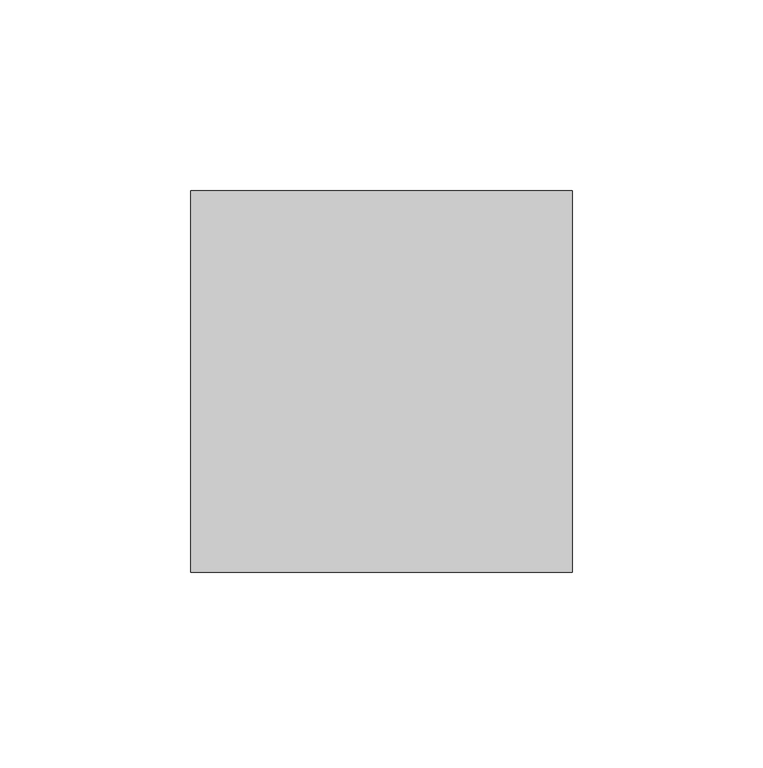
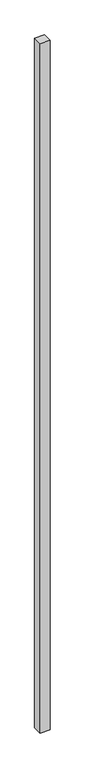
"""IFC4 building model written with IfcOpenShell, lengths in millimetres: proxy geometry, Брус : 100х100."""

from ifc_helpers import new_model, si_unit, origin, origin_with_axes, place, context, project, spatial, polyline, outline, extrude, source, transform, mapped, element, save


def generic_models_22a26330(model_context):
    return source(origin(), model_context, "Body", "SweptSolid", [
        extrude(outline(polyline([(100.0, 0.0), (0.0, 0.0), (0.0, 100.0), (100.0, 100.0), (100.0, 0.0)])), origin_with_axes(), (0.0, 0.0, 1.0), 7560.0),
    ])


if __name__ == "__main__":
    model = new_model("IFC4")
    model_context = context("Model", 3, world=origin())
    ifc_project = project(units=[si_unit("LENGTHUNIT", "METRE", prefix="MILLI")], contexts=[model_context])
    site = spatial("IfcSite", under=ifc_project)
    building = spatial("IfcBuilding", under=site)
    placement = place(None, origin())
    generic_models_shape = generic_models_22a26330(model_context)
    element("IfcBuildingElementProxy", 1, Name="Брус : 100х100", ObjectType="Брус : 100х100", at=placement, inside=building, context=model_context, shape_type="MappedRepresentation", body=[
        mapped(generic_models_shape, transform((0.0, 0.0, 0.0), x_axis=(1.0, 0.0, 0.0), y_axis=(0.0, 1.0, 0.0), z_axis=(0.0, 0.0, 1.0))),
    ])
    save(model, "model.ifc")
